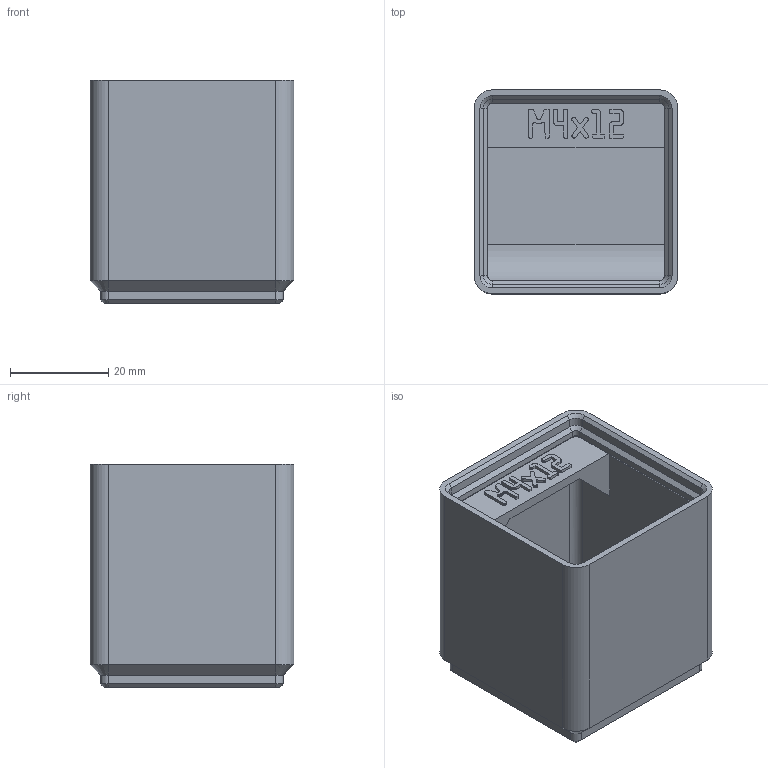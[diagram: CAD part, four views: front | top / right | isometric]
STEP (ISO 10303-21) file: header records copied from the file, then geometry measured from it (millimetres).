
FILE_DESCRIPTION(('Open CASCADE Model'),'2;1');
FILE_NAME('Open CASCADE Shape Model','2026-11-03T10:36:20',('Author'),( 'Open CASCADE'),'Open CASCADE STEP processor 8.0','build123d', 'Unknown');
FILE_SCHEMA(('AUTOMOTIVE_DESIGN { 1 0 10303 214 1 1 1 1 }'));
Length unit declared in the file: millimetre
Products named in the file (1): COMPOUND
Bounding box: 41.5 x 41.5 x 45.55 mm (x, y, z)
Volume: 24942.8 mm3; surface area: 16506.7 mm2
Topology: 1 solids, 1 shells, 595 faces, 1701 edges, 1114 vertices
Faces by surface type: plane 554, cylinder 21, cone 20
Entity records: 40161 total; most frequent: CARTESIAN_POINT 8357, DIRECTION 5112, LINE 3805, VECTOR 3805, ORIENTED_EDGE 3402, PCURVE 3402, DEFINITIONAL_REPRESENTATION 3402, EDGE_CURVE 1701
